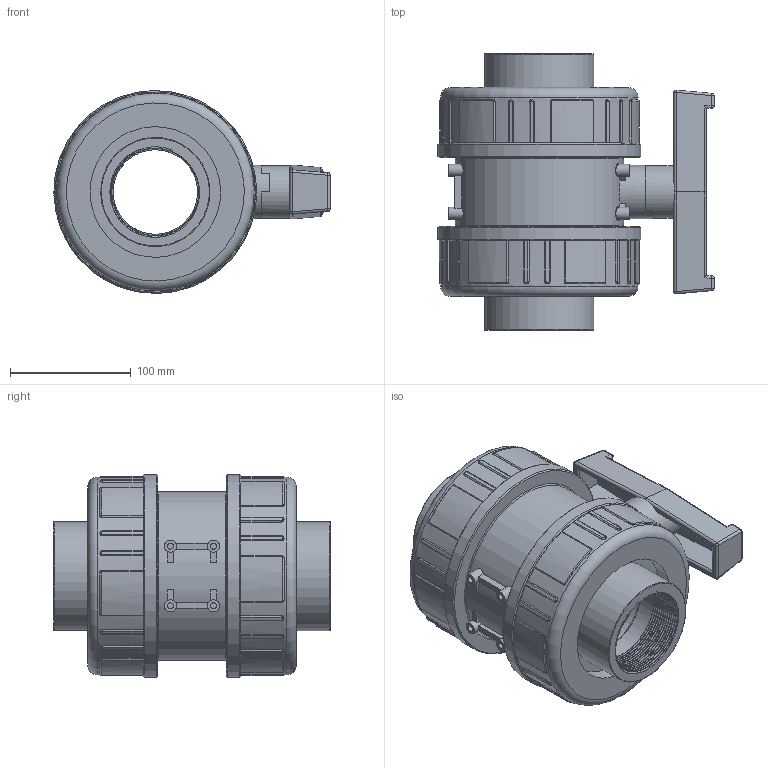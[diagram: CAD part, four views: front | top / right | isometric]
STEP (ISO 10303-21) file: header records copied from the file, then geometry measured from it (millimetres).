
FILE_DESCRIPTION(/* description */ (''),/* implementation_level */ '2;1');
FILE_NAME(/* name */ 'C:\Users\POLYPIPE\Desktop\DATASET INVENTOR\LIBRERIA EFFAST\3D_VALVOLE\3D_VALVOLE A SFERA\3D_BK1\3D_BERBK1E\3D_BERBK1E075H.stp',/* time_stamp */ '2018-01-24T08:59:20+01:00',/* author */ ('POLYPIPE'),/* organization */ (''),/* preprocessor_version */ 'ST-DEVELOPER v16.1',/* originating_system */ 'Autodesk Inventor 2016',/* authorisation */ '');
FILE_SCHEMA (('CONFIG_CONTROL_DESIGN'));
Products named in the file (1): 3D_BERBK1E075H
Bounding box: 228.75 x 229 x 168 mm (x, y, z)
Volume: 2648404.4 mm3; surface area: 390152.2 mm2
Topology: 3 solids, 4 shells, 564 faces, 1416 edges, 885 vertices
Faces by surface type: plane 184, cylinder 180, bspline 162, torus 22, sphere 12, cone 4
Full cylindrical faces by diameter (mm): 5 x8, 10 x8, 29.8 x1, 43.5 x1, 44.1 x1, 70 x2, 72.226 x2, 76.8 x1, 90.5 x2, 108.2 x2, 133 x2, 137 x2, 139.5 x1, 142.5 x2, 163.5 x2, 168 x2
Entity records: 70582 total; most frequent: CARTESIAN_POINT 57445, ORIENTED_EDGE 2698, DIRECTION 2370, EDGE_CURVE 1349, AXIS2_PLACEMENT_3D 902, VERTEX_POINT 869, EDGE_LOOP 646, STYLED_ITEM 567
